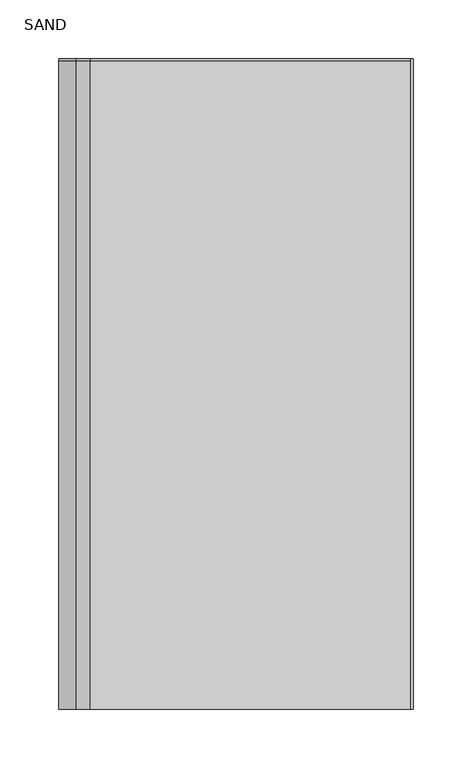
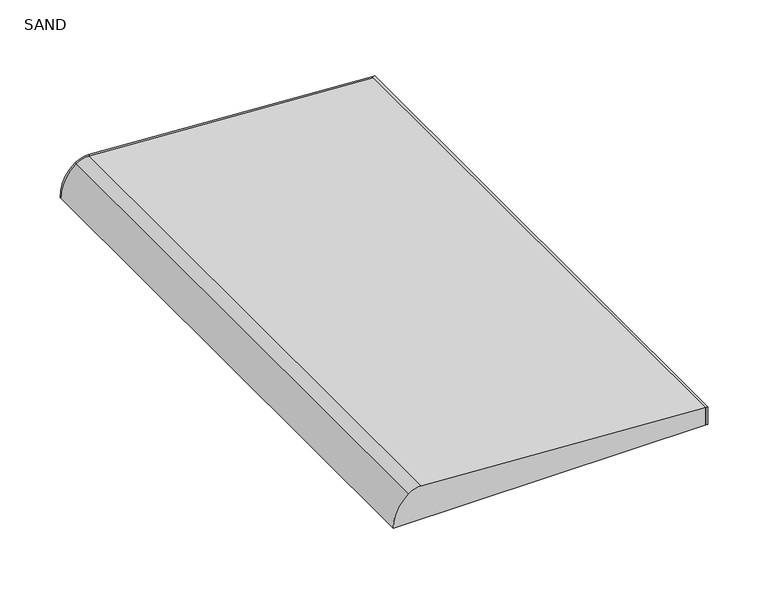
"""IFC4 building model written with IfcOpenShell, lengths in millimetres: proxy geometry, BORDA MONOLITH POOL SAND 30X60 EXT BOLD : SAND."""

from ifc_helpers import new_model, si_unit, point, frame, frame_2d, origin, place, context, project, spatial, polyline, circle_curve, trimmed, segment, composite_curve, outline, extrude, source, transform, mapped, element, save


def sand_1f769084(model_context):
    return source(origin(), model_context, "Body", "SweptSolid", [
        extrude(outline(polyline([(58.0, 302.0), (60.0, 302.0), (60.0, -252.5198785), (58.0, -252.5198785), (58.0, 302.0)])), frame((0.0, 0.0, -18.0000002), z_axis=(0.0, 0.0, 1.0), x_axis=(1.0, 0.0, 0.0)), (0.0, 0.0, 1.0), 18.0000002),
        extrude(outline(composite_curve([segment(polyline([(0.0, 58.0), (16.0426114, -215.1415295)]), True, "CONTINUOUS"), segment(trimmed(circle_curve(frame_2d((-2.7508318, -216.2453378)), 18.8258307), [point((16.0426114, -215.1415295))], [point((12.2702543, -227.5934158))], False, "CARTESIAN"), True, "CONTINUOUS"), segment(trimmed(circle_curve(frame_2d((-16.7149341, -205.6957864)), 36.3269503), [point((12.2702543, -227.5934158))], [point((-18.0000002, -242.0))], False, "CARTESIAN"), True, "CONTINUOUS"), segment(polyline([(-18.0000002, -242.0), (-18.0000002, 58.0), (0.0, 58.0)]), True, "CONTINUOUS")], self_intersect=False)), frame((0.0, -252.5198785, 0.0), z_axis=(0.0, 1.0, 0.0), x_axis=(0.0, 0.0, 1.0)), (0.0, 0.0, 1.0), 552.5198785),
        extrude(outline(composite_curve([segment(polyline([(0.0, 58.0), (16.0426114, -215.1415295)]), True, "CONTINUOUS"), segment(trimmed(circle_curve(frame_2d((-2.7508318, -216.2453378)), 18.8258307), [point((16.0426114, -215.1415295))], [point((12.2702543, -227.5934158))], False, "CARTESIAN"), True, "CONTINUOUS"), segment(trimmed(circle_curve(frame_2d((-16.7149341, -205.6957864)), 36.3269503), [point((12.2702543, -227.5934158))], [point((-18.0000002, -242.0))], False, "CARTESIAN"), True, "CONTINUOUS"), segment(polyline([(-18.0000002, -242.0), (-18.0000002, 58.0), (0.0, 58.0)]), True, "CONTINUOUS")], self_intersect=False)), frame((0.0, 300.0, 0.0), z_axis=(0.0, 1.0, 0.0), x_axis=(0.0, 0.0, 1.0)), (0.0, 0.0, 1.0), 2.0),
    ])


if __name__ == "__main__":
    model = new_model("IFC4")
    model_context = context("Model", 3, world=origin())
    ifc_project = project(units=[si_unit("LENGTHUNIT", "METRE", prefix="MILLI")], contexts=[model_context])
    site = spatial("IfcSite", under=ifc_project)
    building = spatial("IfcBuilding", under=site)
    placement = place(None, origin())
    sand_shape = sand_1f769084(model_context)
    element("IfcBuildingElementProxy", 1, Name="BORDA MONOLITH POOL SAND 30X60 EXT BOLD : SAND", ObjectType="BORDA MONOLITH POOL SAND 30X60 EXT BOLD : SAND", at=placement, inside=building, context=model_context, shape_type="MappedRepresentation", body=[
        mapped(sand_shape, transform((0.0, 0.0, 0.0), x_axis=(1.0, 0.0, 0.0), y_axis=(0.0, 1.0, 0.0), z_axis=(0.0, 0.0, 1.0))),
    ])
    save(model, "model.ifc")
